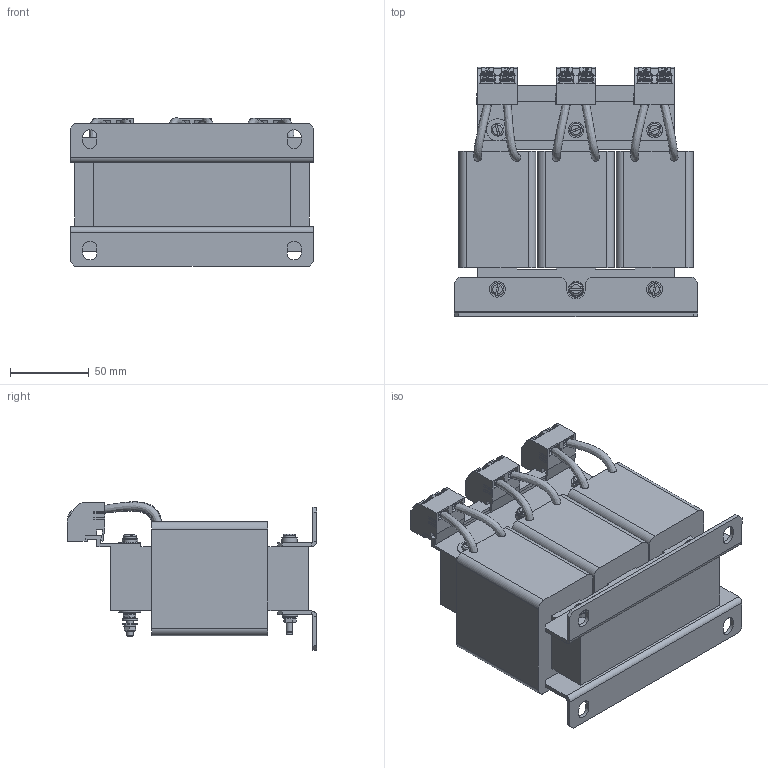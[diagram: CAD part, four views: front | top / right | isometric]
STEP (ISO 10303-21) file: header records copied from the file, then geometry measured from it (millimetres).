
FILE_DESCRIPTION(/* description */ ('raw material description'),/* implementation_level */ '2;1');
FILE_NAME(/* name */ 'P:\Construction\Filter_Marketing\RWK\RWK3044_RWK3062\RWK3044\RWK3044-24-89-E0XXX.stp',/* time_stamp */ '2018-08-27T09:56:39+02:00',/* author */ ('Erika.Jenzer'),/* organization */ ('Schaffner EMV AG'),/* preprocessor_version */ 'ST-DEVELOPER v16.5',/* originating_system */ 'Autodesk Inventor 2017',/* authorisation */ '');
FILE_SCHEMA (('AUTOMOTIVE_DESIGN { 1 0 10303 214 3 1 1 }'));
Length unit declared in the file: millimetre
Products named in the file (1): RWK3044-24-89-E0XXX
Bounding box: 155 x 158.95 x 94.54 mm (x, y, z)
Volume: 1129946.9 mm3; surface area: 154217.4 mm2
Topology: 1 solids, 13 shells, 1567 faces, 4205 edges, 2752 vertices
Faces by surface type: plane 1182, cylinder 234, bspline 62, cone 41, torus 24, sphere 24
Full cylindrical faces by diameter (mm): 4 x25, 4.1 x6, 4.3 x4, 4.5 x1, 5.2 x5, 5.3 x11, 5.5 x6, 6.5 x6, 8 x7, 9 x2, 10 x11, 13 x1, 14 x2
Entity records: 51159 total; most frequent: CARTESIAN_POINT 11013, ORIENTED_EDGE 7996, DIRECTION 7695, EDGE_CURVE 3998, LINE 2821, VECTOR 2821, VERTEX_POINT 2677, AXIS2_PLACEMENT_3D 2437
